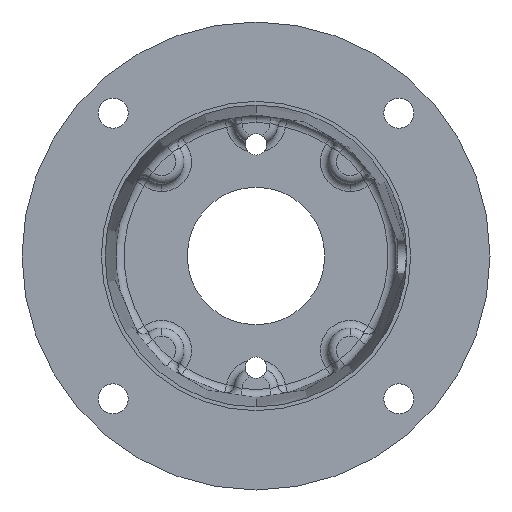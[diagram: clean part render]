
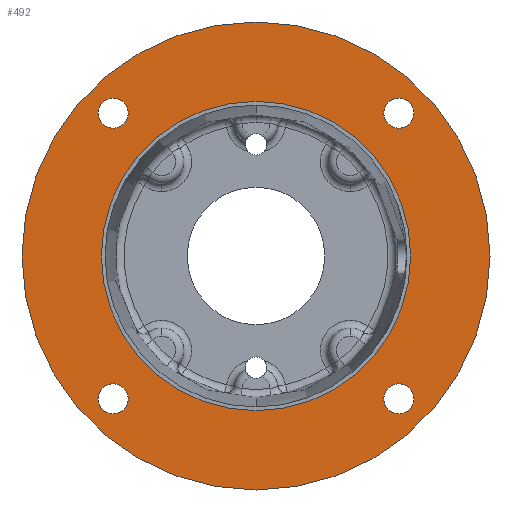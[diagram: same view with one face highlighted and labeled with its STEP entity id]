
A CAD part, front view. The second image highlights one B-rep face of the part: STEP entity #492.
In plain terms, the highlighted planar face has unit normal (0, -1, 0).
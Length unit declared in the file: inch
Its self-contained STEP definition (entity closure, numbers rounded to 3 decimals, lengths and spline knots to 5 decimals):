
#28 = VERTEX_POINT ( 'NONE', #6102 ) ;
#145 = VERTEX_POINT ( 'NONE', #6632 ) ;
#147 = EDGE_CURVE ( 'NONE', #148, #145, #6626, .T. ) ;
#148 = VERTEX_POINT ( 'NONE', #6621 ) ;
#423 = EDGE_CURVE ( 'NONE', #28, #7175, #1107, .T. ) ;
#478 = ORIENTED_EDGE ( 'NONE', *, *, #5805, .T. ) ;
#479 = EDGE_LOOP ( 'NONE', ( #480, #482 ) ) ;
#480 = ORIENTED_EDGE ( 'NONE', *, *, #481, .T. ) ;
#481 = EDGE_CURVE ( 'NONE', #5943, #5944, #1253, .T. ) ;
#482 = ORIENTED_EDGE ( 'NONE', *, *, #5946, .T. ) ;
#483 = EDGE_LOOP ( 'NONE', ( #484, #486 ) ) ;
#484 = ORIENTED_EDGE ( 'NONE', *, *, #485, .T. ) ;
#485 = EDGE_CURVE ( 'NONE', #145, #148, #1248, .T. ) ;
#486 = ORIENTED_EDGE ( 'NONE', *, *, #147, .T. ) ;
#487 = EDGE_LOOP ( 'NONE', ( #488, #489 ) ) ;
#488 = ORIENTED_EDGE ( 'NONE', *, *, #5010, .T. ) ;
#489 = ORIENTED_EDGE ( 'NONE', *, *, #423, .T. ) ;
#492 = ADVANCED_FACE ( 'NONE', ( #1239, #1238, #1237, #1236, #1235, #1234 ), #1233, .F. ) ;
#493 = EDGE_LOOP ( 'NONE', ( #494, #496 ) ) ;
#494 = ORIENTED_EDGE ( 'NONE', *, *, #495, .F. ) ;
#495 = EDGE_CURVE ( 'NONE', #5965, #5903, #1227, .T. ) ;
#496 = ORIENTED_EDGE ( 'NONE', *, *, #5964, .F. ) ;
#497 = EDGE_LOOP ( 'NONE', ( #498, #500 ) ) ;
#498 = ORIENTED_EDGE ( 'NONE', *, *, #499, .T. ) ;
#499 = EDGE_CURVE ( 'NONE', #5933, #5968, #1223, .T. ) ;
#500 = ORIENTED_EDGE ( 'NONE', *, *, #5967, .T. ) ;
#501 = EDGE_LOOP ( 'NONE', ( #502, #478 ) ) ;
#502 = ORIENTED_EDGE ( 'NONE', *, *, #558, .T. ) ;
#558 = EDGE_CURVE ( 'NONE', #5729, #5731, #1383, .T. ) ;
#1103 = DIRECTION ( 'NONE',  ( 0., 0., -1. ) ) ;
#1104 = DIRECTION ( 'NONE',  ( 0., -1., 0. ) ) ;
#1105 = CARTESIAN_POINT ( 'NONE',  ( 0., 0., 0. ) ) ;
#1106 = AXIS2_PLACEMENT_3D ( 'NONE', #1105, #1104, #1103 ) ;
#1107 = CIRCLE ( 'NONE', #1106, 3.405 ) ;
#1222 = AXIS2_PLACEMENT_3D ( 'NONE', #1286, #1285, #1284 ) ;
#1223 = CIRCLE ( 'NONE', #1222, 0.21875 ) ;
#1224 = DIRECTION ( 'NONE',  ( 0., 0., -1. ) ) ;
#1225 = DIRECTION ( 'NONE',  ( 0., -1., 0. ) ) ;
#1226 = AXIS2_PLACEMENT_3D ( 'NONE', #1231, #1225, #1224 ) ;
#1227 = CIRCLE ( 'NONE', #1226, 2.2505 ) ;
#1228 = DIRECTION ( 'NONE',  ( 0., 0., 1. ) ) ;
#1229 = DIRECTION ( 'NONE',  ( 0., 1., 0. ) ) ;
#1230 = AXIS2_PLACEMENT_3D ( 'NONE', #1232, #1229, #1228 ) ;
#1231 = CARTESIAN_POINT ( 'NONE',  ( 0., 0., 0. ) ) ;
#1232 = CARTESIAN_POINT ( 'NONE',  ( -2.20315, 0., 0. ) ) ;
#1233 = PLANE ( 'NONE',  #1230 ) ;
#1234 = FACE_OUTER_BOUND ( 'NONE', #487, .T. ) ;
#1235 = FACE_BOUND ( 'NONE', #483, .T. ) ;
#1236 = FACE_BOUND ( 'NONE', #479, .T. ) ;
#1237 = FACE_BOUND ( 'NONE', #501, .T. ) ;
#1238 = FACE_BOUND ( 'NONE', #497, .T. ) ;
#1239 = FACE_BOUND ( 'NONE', #493, .T. ) ;
#1244 = DIRECTION ( 'NONE',  ( 0., 0., 1. ) ) ;
#1245 = DIRECTION ( 'NONE',  ( 0., 1., 0. ) ) ;
#1246 = CARTESIAN_POINT ( 'NONE',  ( 2.07889, 0., 2.07889 ) ) ;
#1247 = AXIS2_PLACEMENT_3D ( 'NONE', #1246, #1245, #1244 ) ;
#1248 = CIRCLE ( 'NONE', #1247, 0.21875 ) ;
#1249 = DIRECTION ( 'NONE',  ( 0., 0., 1. ) ) ;
#1250 = DIRECTION ( 'NONE',  ( 0., 1., 0. ) ) ;
#1251 = CARTESIAN_POINT ( 'NONE',  ( -2.07889, 0., 2.07889 ) ) ;
#1252 = AXIS2_PLACEMENT_3D ( 'NONE', #1251, #1250, #1249 ) ;
#1253 = CIRCLE ( 'NONE', #1252, 0.21875 ) ;
#1284 = DIRECTION ( 'NONE',  ( 0., 0., 1. ) ) ;
#1285 = DIRECTION ( 'NONE',  ( 0., 1., 0. ) ) ;
#1286 = CARTESIAN_POINT ( 'NONE',  ( 2.07889, 0., -2.07889 ) ) ;
#1379 = DIRECTION ( 'NONE',  ( 0., 0., 1. ) ) ;
#1380 = DIRECTION ( 'NONE',  ( 0., 1., 0. ) ) ;
#1381 = CARTESIAN_POINT ( 'NONE',  ( -2.07889, 0., -2.07889 ) ) ;
#1382 = AXIS2_PLACEMENT_3D ( 'NONE', #1381, #1380, #1379 ) ;
#1383 = CIRCLE ( 'NONE', #1382, 0.21875 ) ;
#2003 = AXIS2_PLACEMENT_3D ( 'NONE', #2057, #2056, #2055 ) ;
#2004 = CIRCLE ( 'NONE', #2003, 3.405 ) ;
#2055 = DIRECTION ( 'NONE',  ( 0., 0., -1. ) ) ;
#2056 = DIRECTION ( 'NONE',  ( 0., -1., 0. ) ) ;
#2057 = CARTESIAN_POINT ( 'NONE',  ( 0., 0., 0. ) ) ;
#4083 = CARTESIAN_POINT ( 'NONE',  ( -2.07889, 0., -2.29764 ) ) ;
#4088 = CARTESIAN_POINT ( 'NONE',  ( -2.07889, 0., -1.86014 ) ) ;
#4223 = DIRECTION ( 'NONE',  ( 0., 0., 1. ) ) ;
#4224 = DIRECTION ( 'NONE',  ( 0., 1., 0. ) ) ;
#4225 = CARTESIAN_POINT ( 'NONE',  ( -2.07889, 0., -2.07889 ) ) ;
#4226 = AXIS2_PLACEMENT_3D ( 'NONE', #4225, #4224, #4223 ) ;
#4227 = CIRCLE ( 'NONE', #4226, 0.21875 ) ;
#4429 = CARTESIAN_POINT ( 'NONE',  ( 0., 0., 2.2505 ) ) ;
#4497 = CARTESIAN_POINT ( 'NONE',  ( 2.07889, 0., -1.86014 ) ) ;
#4541 = DIRECTION ( 'NONE',  ( 0., 0., 1. ) ) ;
#4542 = DIRECTION ( 'NONE',  ( 0., 1., 0. ) ) ;
#4543 = CARTESIAN_POINT ( 'NONE',  ( -2.07889, 0., 2.07889 ) ) ;
#4544 = AXIS2_PLACEMENT_3D ( 'NONE', #4543, #4542, #4541 ) ;
#4545 = CIRCLE ( 'NONE', #4544, 0.21875 ) ;
#4546 = CARTESIAN_POINT ( 'NONE',  ( -2.07889, 0., 1.86014 ) ) ;
#4547 = CARTESIAN_POINT ( 'NONE',  ( -2.07889, 0., 2.29764 ) ) ;
#4556 = CARTESIAN_POINT ( 'NONE',  ( 2.07889, 0., -2.29764 ) ) ;
#4557 = DIRECTION ( 'NONE',  ( 0., 0., 1. ) ) ;
#4558 = DIRECTION ( 'NONE',  ( 0., 1., 0. ) ) ;
#4559 = CARTESIAN_POINT ( 'NONE',  ( 2.07889, 0., -2.07889 ) ) ;
#4560 = AXIS2_PLACEMENT_3D ( 'NONE', #4559, #4558, #4557 ) ;
#4561 = CIRCLE ( 'NONE', #4560, 0.21875 ) ;
#4562 = CARTESIAN_POINT ( 'NONE',  ( 0., 0., -2.2505 ) ) ;
#4563 = DIRECTION ( 'NONE',  ( 0., 0., -1. ) ) ;
#4564 = DIRECTION ( 'NONE',  ( 0., -1., 0. ) ) ;
#4565 = CARTESIAN_POINT ( 'NONE',  ( 0., 0., 0. ) ) ;
#4566 = AXIS2_PLACEMENT_3D ( 'NONE', #4565, #4564, #4563 ) ;
#4572 = CIRCLE ( 'NONE', #4566, 2.2505 ) ;
#4758 = CARTESIAN_POINT ( 'NONE',  ( 0., 0., -3.405 ) ) ;
#5010 = EDGE_CURVE ( 'NONE', #7175, #28, #2004, .T. ) ;
#5729 = VERTEX_POINT ( 'NONE', #4088 ) ;
#5731 = VERTEX_POINT ( 'NONE', #4083 ) ;
#5805 = EDGE_CURVE ( 'NONE', #5731, #5729, #4227, .T. ) ;
#5903 = VERTEX_POINT ( 'NONE', #4429 ) ;
#5933 = VERTEX_POINT ( 'NONE', #4497 ) ;
#5943 = VERTEX_POINT ( 'NONE', #4547 ) ;
#5944 = VERTEX_POINT ( 'NONE', #4546 ) ;
#5946 = EDGE_CURVE ( 'NONE', #5944, #5943, #4545, .T. ) ;
#5964 = EDGE_CURVE ( 'NONE', #5903, #5965, #4572, .T. ) ;
#5965 = VERTEX_POINT ( 'NONE', #4562 ) ;
#5967 = EDGE_CURVE ( 'NONE', #5968, #5933, #4561, .T. ) ;
#5968 = VERTEX_POINT ( 'NONE', #4556 ) ;
#6102 = CARTESIAN_POINT ( 'NONE',  ( 0., 0., 3.405 ) ) ;
#6621 = CARTESIAN_POINT ( 'NONE',  ( 2.07889, 0., 1.86014 ) ) ;
#6622 = DIRECTION ( 'NONE',  ( 0., 0., 1. ) ) ;
#6623 = DIRECTION ( 'NONE',  ( 0., 1., 0. ) ) ;
#6624 = CARTESIAN_POINT ( 'NONE',  ( 2.07889, 0., 2.07889 ) ) ;
#6625 = AXIS2_PLACEMENT_3D ( 'NONE', #6624, #6623, #6622 ) ;
#6626 = CIRCLE ( 'NONE', #6625, 0.21875 ) ;
#6632 = CARTESIAN_POINT ( 'NONE',  ( 2.07889, 0., 2.29764 ) ) ;
#7175 = VERTEX_POINT ( 'NONE', #4758 ) ;
